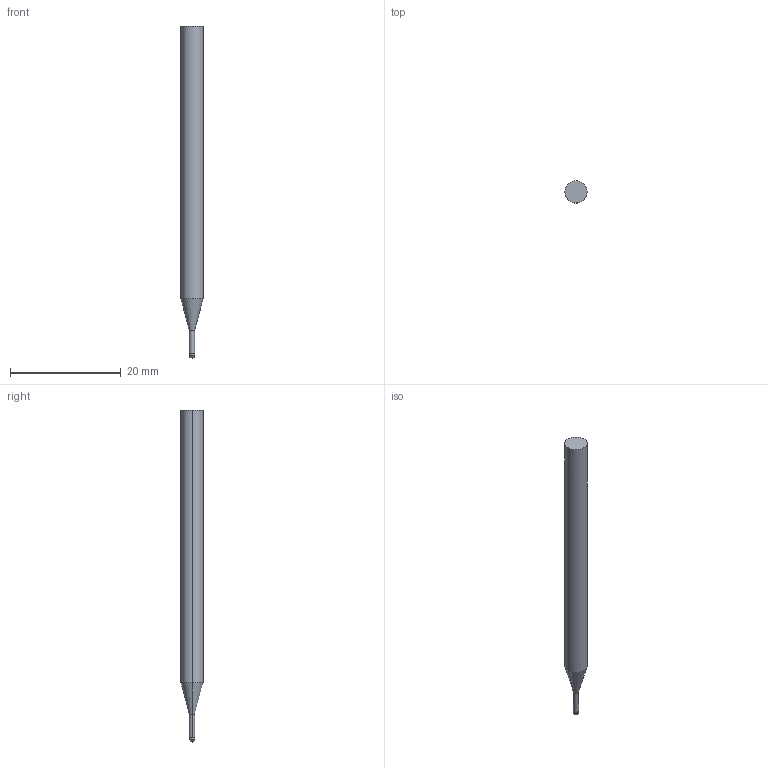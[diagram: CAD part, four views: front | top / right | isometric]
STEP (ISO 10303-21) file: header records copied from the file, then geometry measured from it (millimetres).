
FILE_DESCRIPTION(('STEP AP214'),'1');
FILE_NAME('cctmp_2125C93E-8C30-4080-AA7F-6057436E19E6_2020_10_07_07_18_52_0794..stp','2020-10-07T05:18:52',('Meusburger Georg GmbH & Co KG'),('CADClick - www.CADClick.com'),'Spatial InterOp 3D',' ','unknown authorization');
FILE_SCHEMA(('AUTOMOTIVE_DESIGN { 1 0 10303 214 1 1 1 1 }'));
Length unit declared in the file: millimetre
Products named in the file (1): WZF289967_1_5
Bounding box: 4 x 4 x 59.99 mm (x, y, z)
Volume: 653.9 mm3; surface area: 693.1 mm2
Topology: 1 solids, 1 shells, 12 faces, 24 edges, 13 vertices
Faces by surface type: cylinder 6, cone 2, sphere 2, plane 2
Entity records: 420 total; most frequent: DIRECTION 62, CARTESIAN_POINT 48, ORIENTED_EDGE 44, AXIS2_PLACEMENT_3D 27, EDGE_CURVE 22, CIRCLE 14, STYLED_ITEM 13, PRESENTATION_STYLE_ASSIGNMENT 13
